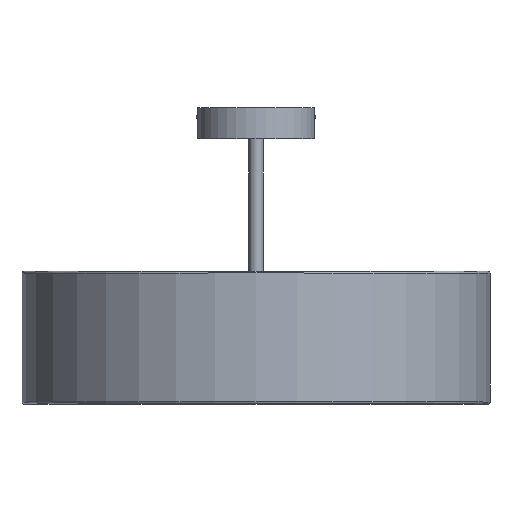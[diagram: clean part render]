
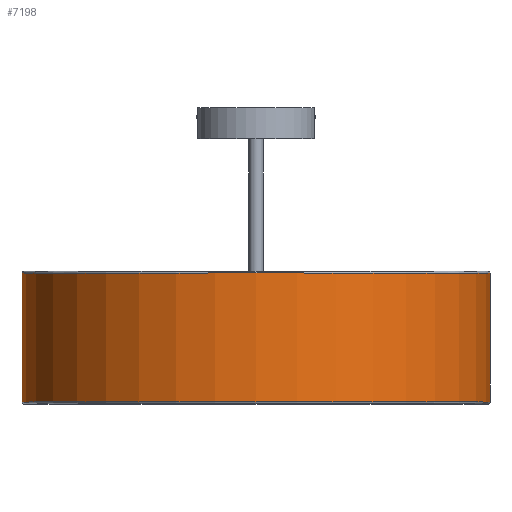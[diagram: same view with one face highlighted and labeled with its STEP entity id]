
A CAD part, top view. The second image highlights one B-rep face of the part: STEP entity #7198.
In plain terms, the highlighted cylindrical face has radius 300 mm (diameter 600 mm), a full revolution.
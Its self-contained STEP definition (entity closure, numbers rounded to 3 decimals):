
#1234=LINE('',#12185,#1977);
#1977=VECTOR('',#9924,300.);
#2063=CYLINDRICAL_SURFACE('',#7907,300.);
#2475=FACE_OUTER_BOUND('',#2913,.T.);
#2913=EDGE_LOOP('',(#6741,#6742,#6743,#6744,#6745,#6746));
#3134=CIRCLE('',#7905,300.);
#3135=CIRCLE('',#7906,300.);
#3136=CIRCLE('',#7908,300.);
#3137=CIRCLE('',#7909,300.);
#3787=VERTEX_POINT('',#12178);
#3788=VERTEX_POINT('',#12180);
#3789=VERTEX_POINT('',#12184);
#3790=VERTEX_POINT('',#12186);
#4774=EDGE_CURVE('',#3787,#3788,#3134,.T.);
#4775=EDGE_CURVE('',#3788,#3787,#3135,.T.);
#4776=EDGE_CURVE('',#3788,#3789,#1234,.T.);
#4777=EDGE_CURVE('',#3790,#3789,#3136,.T.);
#4778=EDGE_CURVE('',#3789,#3790,#3137,.T.);
#6741=ORIENTED_EDGE('',*,*,#4775,.F.);
#6742=ORIENTED_EDGE('',*,*,#4776,.T.);
#6743=ORIENTED_EDGE('',*,*,#4777,.F.);
#6744=ORIENTED_EDGE('',*,*,#4778,.F.);
#6745=ORIENTED_EDGE('',*,*,#4776,.F.);
#6746=ORIENTED_EDGE('',*,*,#4774,.F.);
#7198=ADVANCED_FACE('',(#2475),#2063,.T.);
#7905=AXIS2_PLACEMENT_3D('',#12181,#9918,#9919);
#7906=AXIS2_PLACEMENT_3D('',#12182,#9920,#9921);
#7907=AXIS2_PLACEMENT_3D('',#12183,#9922,#9923);
#7908=AXIS2_PLACEMENT_3D('',#12187,#9925,#9926);
#7909=AXIS2_PLACEMENT_3D('',#12188,#9927,#9928);
#9918=DIRECTION('center_axis',(0.,1.,0.));
#9919=DIRECTION('ref_axis',(1.,0.,0.));
#9920=DIRECTION('center_axis',(0.,1.,0.));
#9921=DIRECTION('ref_axis',(1.,0.,0.));
#9922=DIRECTION('center_axis',(0.,1.,0.));
#9923=DIRECTION('ref_axis',(1.,0.,0.));
#9924=DIRECTION('',(0.,-1.,0.));
#9925=DIRECTION('center_axis',(0.,-1.,0.));
#9926=DIRECTION('ref_axis',(1.,0.,0.));
#9927=DIRECTION('center_axis',(0.,-1.,0.));
#9928=DIRECTION('ref_axis',(1.,0.,0.));
#12178=CARTESIAN_POINT('',(0.,-212.5,-300.));
#12180=CARTESIAN_POINT('',(-300.,-212.5,0.));
#12181=CARTESIAN_POINT('Origin',(0.,-212.5,0.));
#12182=CARTESIAN_POINT('Origin',(0.,-212.5,0.));
#12183=CARTESIAN_POINT('Origin',(0.,-380.,0.));
#12184=CARTESIAN_POINT('',(-300.,-377.5,0.));
#12185=CARTESIAN_POINT('',(-300.,-380.,0.));
#12186=CARTESIAN_POINT('',(0.,-377.5,-300.));
#12187=CARTESIAN_POINT('Origin',(0.,-377.5,0.));
#12188=CARTESIAN_POINT('Origin',(0.,-377.5,0.));
